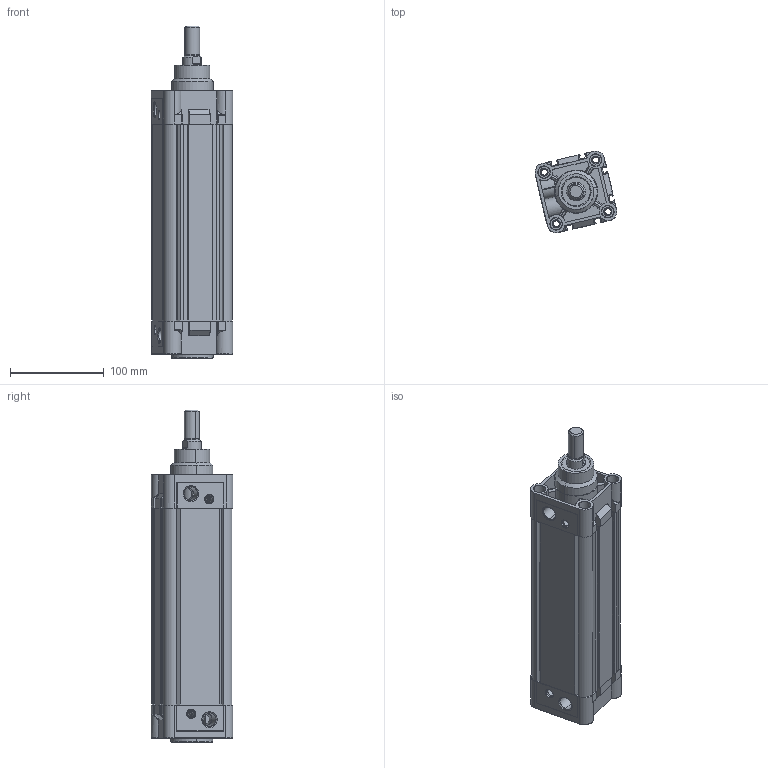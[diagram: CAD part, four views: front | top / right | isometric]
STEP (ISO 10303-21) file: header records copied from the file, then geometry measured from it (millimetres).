
FILE_DESCRIPTION (( 'STEP AP203' ), '1' );
FILE_NAME ('KDNC63x160CYLINDER.STEP', '2015-03-04T12:29:34', ( 'user' ), ( '' ), 'SwSTEP 2.0', 'SolidWorks 2013', '' );
FILE_SCHEMA (( 'CONFIG_CONTROL_DESIGN' ));
Length unit declared in the file: millimetre
Products named in the file (6): ORTA PÝSTON 63; ARKA KAPAK  63; Piston Mili 63x160; 烰 KAPAK  63; KDNC 63x160 BORU; KDNC63x160CYLINDER
Assembly tree (5 placements, depth 2):
  KDNC63x160CYLINDER
    ORTA PÝSTON 63
    ARKA KAPAK  63
    Piston Mili 63x160
    烰 KAPAK  63
    KDNC 63x160 BORU
Bounding box: 87.09 x 87.21 x 354 mm (x, y, z)
Volume: 832654.8 mm3; surface area: 293289.1 mm2
Topology: 5 solids, 5 shells, 839 faces, 2158 edges, 1378 vertices
Faces by surface type: cylinder 372, plane 309, bspline 80, cone 78
Entity records: 35511 total; most frequent: CARTESIAN_POINT 15379, ORIENTED_EDGE 4308, DIRECTION 3734, EDGE_CURVE 2154, VERTEX_POINT 1378, AXIS2_PLACEMENT_3D 1373, VECTOR 988, LINE 988
